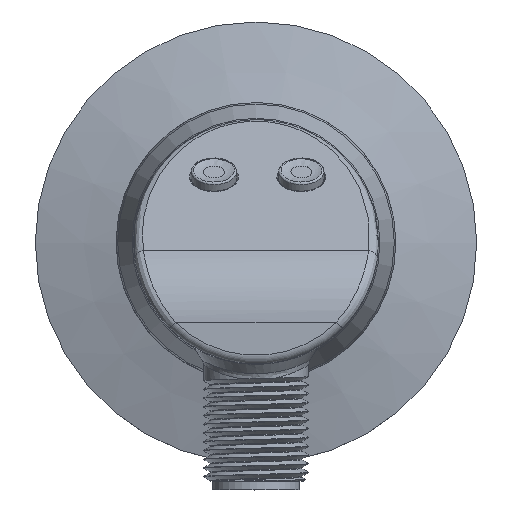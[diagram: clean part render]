
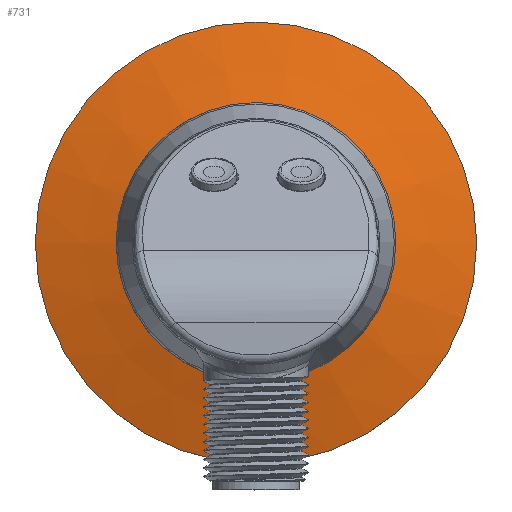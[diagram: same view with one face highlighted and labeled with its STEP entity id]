
A CAD part, top view. The second image highlights one B-rep face of the part: STEP entity #731.
In plain terms, the highlighted conical face has half-angle 75 degrees and reference radius 13.552 mm.
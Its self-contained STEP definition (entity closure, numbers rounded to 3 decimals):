
#252=CONICAL_SURFACE('',#3664,13.552,75.);
#515=FACE_BOUND('',#1241,.T.);
#516=FACE_BOUND('',#1242,.T.);
#731=ADVANCED_FACE('',(#515,#516),#252,.T.);
#1241=EDGE_LOOP('',(#2422));
#1242=EDGE_LOOP('',(#2423));
#2422=ORIENTED_EDGE('',*,*,#3135,.T.);
#2423=ORIENTED_EDGE('',*,*,#3134,.T.);
#2735=VERTEX_POINT('',#8661);
#2736=VERTEX_POINT('',#8664);
#3134=EDGE_CURVE('',#2735,#2735,#3300,.T.);
#3135=EDGE_CURVE('',#2736,#2736,#3301,.T.);
#3300=CIRCLE('',#3661,25.25);
#3301=CIRCLE('',#3663,14.273);
#3661=AXIS2_PLACEMENT_3D('',#8660,#4547,#4548);
#3663=AXIS2_PLACEMENT_3D('',#8663,#4551,#4552);
#3664=AXIS2_PLACEMENT_3D('',#8665,#4553,#4554);
#4547=DIRECTION('',(0.,0.,1.));
#4548=DIRECTION('',(-1.,0.,0.));
#4551=DIRECTION('',(0.,0.,-1.));
#4552=DIRECTION('',(-1.,0.,0.));
#4553=DIRECTION('',(0.,0.,-1.));
#4554=DIRECTION('',(0.,1.,0.));
#8660=CARTESIAN_POINT('',(0.,0.,-20.441));
#8661=CARTESIAN_POINT('',(-25.25,0.,-20.441));
#8663=CARTESIAN_POINT('',(0.,0.,-17.5));
#8664=CARTESIAN_POINT('',(-14.273,0.,-17.5));
#8665=CARTESIAN_POINT('',(0.,0.,-17.307));
